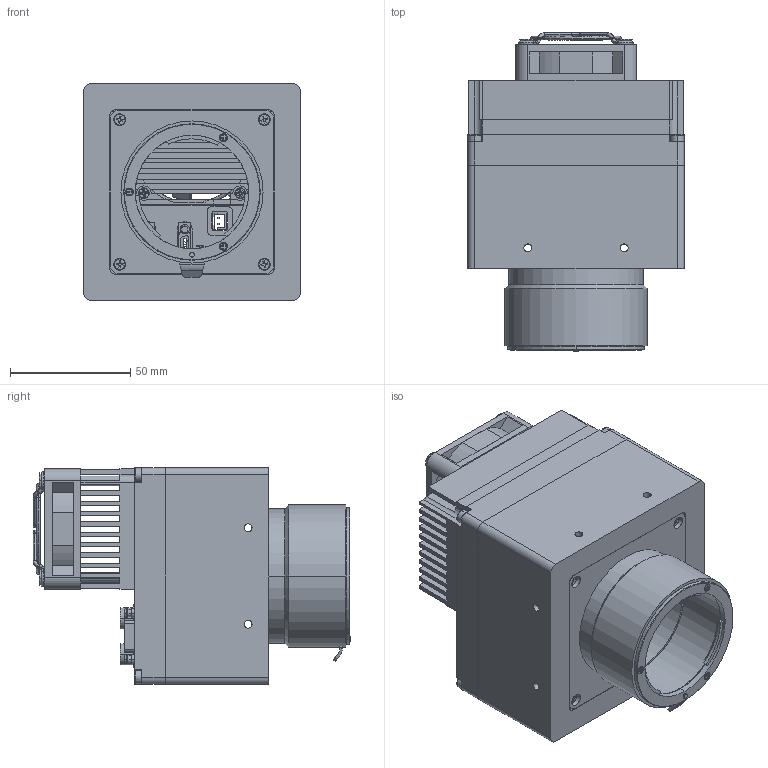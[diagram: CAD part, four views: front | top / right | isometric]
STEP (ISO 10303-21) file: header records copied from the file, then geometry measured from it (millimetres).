
FILE_DESCRIPTION (( 'STEP AP203' ), '1' );
FILE_NAME ('TS50M2CL-15M-A01-V2.1.0 外形尺寸图.STEP', '2022-08-05T05:55:14', ( '微软用户' ), ( '微软中国' ), 'SwSTEP 2.0', 'SolidWorks 2017', '' );
FILE_SCHEMA (( 'CONFIG_CONTROL_DESIGN' ));
Length unit declared in the file: millimetre
Products named in the file (1): TS50M2CL-15M-A01-V2.1.0 俋倛喜渡芞
Bounding box: 90 x 131.97 x 90 mm (x, y, z)
Surface area: 102636.4 mm2 (no closed solid volume)
Topology: 0 solids, 87 shells, 969 faces, 3624 edges, 2685 vertices
Faces by surface type: plane 494, cylinder 301, bspline 92, cone 64, sphere 10, torus 8
Entity records: 43556 total; most frequent: CARTESIAN_POINT 14231, DIRECTION 5828, ORIENTED_EDGE 5446, EDGE_CURVE 3592, VERTEX_POINT 2672, LINE 2204, VECTOR 2204, AXIS2_PLACEMENT_3D 1812
